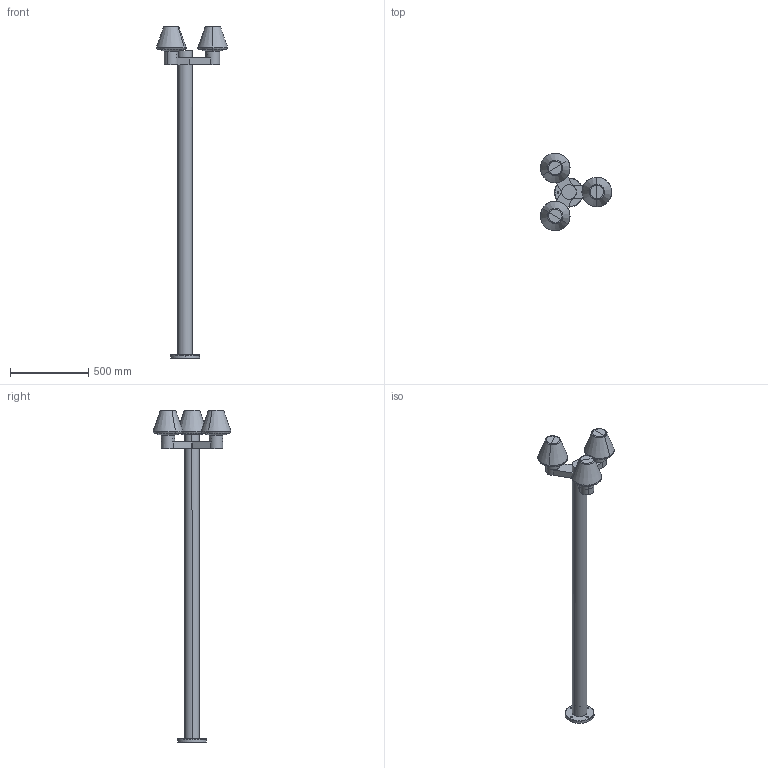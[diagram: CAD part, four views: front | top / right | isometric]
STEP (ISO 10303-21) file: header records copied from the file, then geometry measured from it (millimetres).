
FILE_DESCRIPTION(/* description */ (''),/* implementation_level */ '2;1');
FILE_NAME(/* name */ 'C:\Users\FrancoSartori\Documents\FARO\01_En Proceso\00_MOON BLUB´S MUFFIN MISTU\03_Publicación\74436F3-02.stp',/* time_stamp */ '2021-06-09T13:40:21+02:00',/* author */ ('FrancoSartori'),/* organization */ (''),/* preprocessor_version */ 'ST-DEVELOPER v18.1',/* originating_system */ 'AutoCAD Mechanical',/* authorisation */ '');
FILE_SCHEMA (('AUTOMOTIVE_DESIGN { 1 0 10303 214 3 1 1 }'));
Length unit declared in the file: millimetre
Products named in the file (3): Product; 74436_ - LAMP-471001-Export; 74428_MISTU - B-474703-Export
Assembly tree (4 placements, depth 2):
  Product
    74436_ - LAMP-471001-Export
    74428_MISTU - B-474703-Export  x3
Bounding box: 456.66 x 497.85 x 2125.2 mm (x, y, z)
Volume: 24009534.3 mm3; surface area: 1247062.9 mm2
Topology: 7 solids, 7 shells, 145 faces, 333 edges, 206 vertices
Faces by surface type: plane 57, cylinder 54, torus 20, cone 14
Entity records: 3572 total; most frequent: CARTESIAN_POINT 1061, DIRECTION 551, ORIENTED_EDGE 482, EDGE_CURVE 241, AXIS2_PLACEMENT_3D 224, VERTEX_POINT 154, CIRCLE 118, EDGE_LOOP 115
